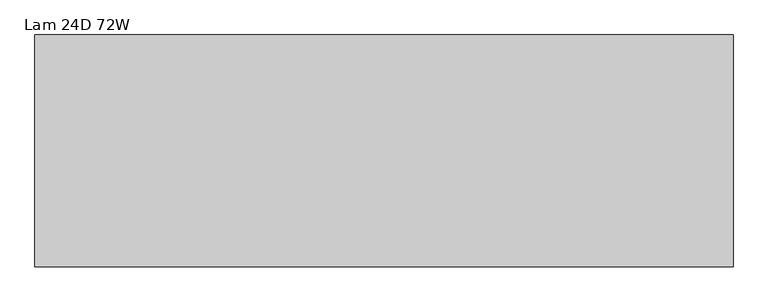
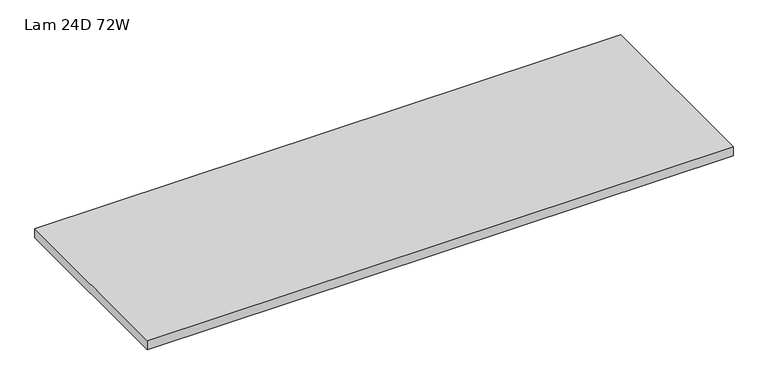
"""IFC4 building model written with IfcOpenShell, lengths in millimetres: furniture geometry, HermanMiller_CoStruc_C4700_RectangularWorkTableSurface : Lam 24D 72W."""

import ifcopenshell
import ifcopenshell.guid

model = None  # the IFC model being written
_history = None  # IfcOwnerHistory: only IFC2X3 demands one
_inside = {}  # id of a spatial element -> (the spatial element, [elements in it])
_under = {}  # id of a project, library or spatial element -> (it, [spatial elements below it])
_declared = {}  # id of a project -> (the project, [libraries it declares])
_typed = {}  # id of a type object -> (the type object, [elements of that type])
_made_of = {}  # id of a material, layer set ... -> (it, [elements and type objects made of it])


def new_model(schema):
    """Start an empty IFC model of exactly this schema.

    Asked for "IFC4X3", IfcOpenShell would pick the latest addendum, in which some entities
    have other attributes; the version numbers below select the first issue.
    IFC2X3 requires an IfcOwnerHistory on every rooted entity: one is made here for all.
    """
    global model, _history
    if schema == "IFC4X3":
        model = ifcopenshell.file(schema_version=(4, 3, 0, 0))
    else:
        model = ifcopenshell.file(schema=schema)
    _inside.clear()
    _under.clear()
    _declared.clear()
    _typed.clear()
    _made_of.clear()
    _history = None
    if model.schema == "IFC2X3":
        org = make("IfcOrganization", Name="unknown")
        user = make(
            "IfcPersonAndOrganization",
            ThePerson=make("IfcPerson", FamilyName="unknown"),
            TheOrganization=org,
        )
        app = make(
            "IfcApplication",
            ApplicationDeveloper=org,
            Version="unknown",
            ApplicationFullName="unknown",
            ApplicationIdentifier="unknown",
        )
        _history = make(
            "IfcOwnerHistory",
            OwningUser=user,
            OwningApplication=app,
            ChangeAction="ADDED",
            CreationDate=0,
        )
    return model


def make(cls, **values):
    """One entity of the class cls with the attributes given. An attribute that is None is left unset."""
    return model.create_entity(
        cls, **{name: value for name, value in values.items() if value is not None}
    )


def rooted(cls, **values):
    """An entity with a GlobalId (a new one), such as an element, a storey or a relation."""
    return make(cls, GlobalId=ifcopenshell.guid.new(), OwnerHistory=_history, **values)


def si_unit(unit_type, name, prefix=None):
    """IfcSIUnit, for example si_unit("LENGTHUNIT", "METRE", prefix="MILLI")."""
    return make("IfcSIUnit", UnitType=unit_type, Prefix=prefix, Name=name)


def assignment(units):
    """IfcUnitAssignment: the units of a project."""
    return None if units is None else make("IfcUnitAssignment", Units=units)


def point(xyz):
    """IfcCartesianPoint."""
    return None if xyz is None else make("IfcCartesianPoint", Coordinates=xyz)


def direction(xyz):
    """IfcDirection."""
    return None if xyz is None else make("IfcDirection", DirectionRatios=xyz)


def frame(location, z_axis=None, x_axis=None):
    """IfcAxis2Placement3D, a coordinate frame: its origin and axes. An axis left out is left unset."""
    return make(
        "IfcAxis2Placement3D",
        Location=point(location),
        Axis=direction(z_axis),
        RefDirection=direction(x_axis),
    )


def origin():
    """The frame at (0, 0, 0) with its axes left unset."""
    return frame((0.0, 0.0, 0.0))


def place(relative_to, where):
    """IfcLocalPlacement: puts the frame where relative to a parent placement (None: the world)."""
    return make(
        "IfcLocalPlacement", PlacementRelTo=relative_to, RelativePlacement=where
    )


def context(
    kind, dimensions, precision=None, world=None, true_north=None, identifier=None
):
    """IfcGeometricRepresentationContext, for example the 3D "Model" context."""
    return make(
        "IfcGeometricRepresentationContext",
        ContextIdentifier=identifier,
        ContextType=kind,
        CoordinateSpaceDimension=dimensions,
        Precision=precision,
        WorldCoordinateSystem=world,
        TrueNorth=true_north,
    )


def project(units=None, contexts=None):
    """IfcProject with its units and contexts."""
    return rooted(
        "IfcProject",
        Name="project",
        RepresentationContexts=contexts,
        UnitsInContext=assignment(units),
    )


def spatial(cls, under=None, at=None, **own):
    """A site, building, storey or space (cls), placed at a placement, below another one or the project."""
    s = rooted(cls, ObjectPlacement=at, **own)
    if under is not None:
        _under.setdefault(under.id(), (under, []))[1].append(s)
    return s


def polyline(points):
    """IfcPolyline through the points."""
    return make("IfcPolyline", Points=[point(p) for p in points])


def outline(outer, holes=None, kind="AREA"):
    """IfcArbitraryClosedProfileDef: a profile drawn as a closed curve; with holes, ...WithVoids."""
    if holes is None:
        return make("IfcArbitraryClosedProfileDef", ProfileType=kind, OuterCurve=outer)
    return make(
        "IfcArbitraryProfileDefWithVoids",
        ProfileType=kind,
        OuterCurve=outer,
        InnerCurves=holes,
    )


def extrude(swept, where, along, depth):
    """IfcExtrudedAreaSolid: the profile swept, set in the frame where, extruded along a direction by depth."""
    return make(
        "IfcExtrudedAreaSolid",
        SweptArea=swept,
        Position=where,
        ExtrudedDirection=direction(along),
        Depth=depth,
    )


def shape(context_of_items, identifier, shape_type, items):
    """IfcShapeRepresentation: the items that make up one representation, for example the "Body"."""
    return make(
        "IfcShapeRepresentation",
        ContextOfItems=context_of_items,
        RepresentationIdentifier=identifier,
        RepresentationType=shape_type,
        Items=items,
    )


def source(mapping_origin, context_of_items, identifier, shape_type, items):
    """IfcRepresentationMap: a shape defined once, which mapped items show again and again."""
    return make(
        "IfcRepresentationMap",
        MappingOrigin=mapping_origin,
        MappedRepresentation=shape(context_of_items, identifier, shape_type, items),
    )


def transform(
    local_origin,
    x_axis=None,
    y_axis=None,
    z_axis=None,
    scale=None,
    scale2=None,
    scale3=None,
    uniform=True,
):
    """IfcCartesianTransformationOperator3D, or its non-uniform kind. x_axis, y_axis, z_axis: its Axis1, 2, 3."""
    if uniform:
        return make(
            "IfcCartesianTransformationOperator3D",
            Axis1=direction(x_axis),
            Axis2=direction(y_axis),
            LocalOrigin=point(local_origin),
            Scale=scale,
            Axis3=direction(z_axis),
        )
    return make(
        "IfcCartesianTransformationOperator3DnonUniform",
        Axis1=direction(x_axis),
        Axis2=direction(y_axis),
        LocalOrigin=point(local_origin),
        Scale=scale,
        Axis3=direction(z_axis),
        Scale2=scale2,
        Scale3=scale3,
    )


def mapped(mapping_source, mapping_target):
    """IfcMappedItem: shows the shape of a source again, moved by a transform."""
    return make(
        "IfcMappedItem", MappingSource=mapping_source, MappingTarget=mapping_target
    )


def made_of(thing, what):
    """Note that an element or type object is made of a material, layer set ...; save() writes the relation."""
    if what is not None:
        _made_of.setdefault(what.id(), (what, []))[1].append(thing)
    return thing


def element(
    cls,
    number,
    at=None,
    inside=None,
    cuts=None,
    type_object=None,
    material=None,
    context=None,
    identifier="Body",
    shape_type=None,
    held_by="IfcProductDefinitionShape",
    body=None,
    shapes=None,
    **own,
):
    """One element of the class cls, such as IfcWall. Its Tag is "e" and its number.

    at: its placement. inside: the storey or other place that contains it. cuts: it is an
    opening in that element (IfcRelVoidsElement). A single representation is given by context,
    identifier, shape_type and body (its items); several are given by shapes. held_by: the class
    of the entity that holds the representations. save() writes the other relations.
    """
    e = rooted(cls, Tag="e%d" % number, ObjectPlacement=at, **own)
    if body is not None:
        shapes = [shape(context, identifier, shape_type, body)]
    if shapes is not None:
        e.Representation = make(held_by, Representations=shapes)
    if inside is not None:
        _inside.setdefault(inside.id(), (inside, []))[1].append(e)
    if cuts is not None:
        rooted(
            "IfcRelVoidsElement", RelatingBuildingElement=cuts, RelatedOpeningElement=e
        )
    if type_object is not None:
        _typed.setdefault(type_object.id(), (type_object, []))[1].append(e)
    return made_of(e, material)


def aggregate(whole, parts):
    """IfcRelAggregates: a whole, such as a stair, and the parts it consists of."""
    return rooted("IfcRelAggregates", RelatingObject=whole, RelatedObjects=parts)


def save(model, path):
    """Write the relations noted so far, then the file.

    IfcRelAggregates (storeys below a building ...), IfcRelContainedInSpatialStructure (elements
    in a storey), IfcRelDefinesByType, IfcRelAssociatesMaterial and IfcRelDeclares: one each for
    every whole, place, type object, material and project.
    """
    for whole, parts in _under.values():
        aggregate(whole, parts)
    for where, things in _inside.values():
        rooted(
            "IfcRelContainedInSpatialStructure",
            RelatedElements=things,
            RelatingStructure=where,
        )
    for kind, things in _typed.values():
        rooted("IfcRelDefinesByType", RelatedObjects=things, RelatingType=kind)
    for what, things in _made_of.values():
        rooted("IfcRelAssociatesMaterial", RelatedObjects=things, RelatingMaterial=what)
    for by, libraries in _declared.values():
        rooted("IfcRelDeclares", RelatingContext=by, RelatedDefinitions=libraries)
    model.write(path)


def lam_24d_72w_4e09535b(model_context):
    return source(origin(), model_context, "Body", "SweptSolid", [
        extrude(outline(polyline([(1828.7999999, -3.0467299), (1828.7999999, -609.6), (3.1750001, -609.6), (3.1750001, -3.0467299), (1828.7999999, -3.0467299)])), frame((0.0, 0.0, 852.678), z_axis=(0.0, 0.0, 1.0), x_axis=(1.0, 0.0, 0.0)), (0.0, 0.0, 1.0), 29.972),
    ])


if __name__ == "__main__":
    model = new_model("IFC4")
    model_context = context("Model", 3, world=origin())
    ifc_project = project(units=[si_unit("LENGTHUNIT", "METRE", prefix="MILLI")], contexts=[model_context])
    site = spatial("IfcSite", under=ifc_project)
    building = spatial("IfcBuilding", under=site)
    placement = place(None, origin())
    lam_24d_72w_shape = lam_24d_72w_4e09535b(model_context)
    element("IfcFurniture", 1, ObjectType="HermanMiller_CoStruc_C4700_RectangularWorkTableSurface : Lam 24D 72W", at=placement, inside=building, context=model_context, shape_type="MappedRepresentation", body=[
        mapped(lam_24d_72w_shape, transform((0.0, 0.0, 0.0), x_axis=(1.0, 0.0, 0.0), y_axis=(0.0, 1.0, 0.0), z_axis=(0.0, 0.0, 1.0))),
    ])
    save(model, "model.ifc")
